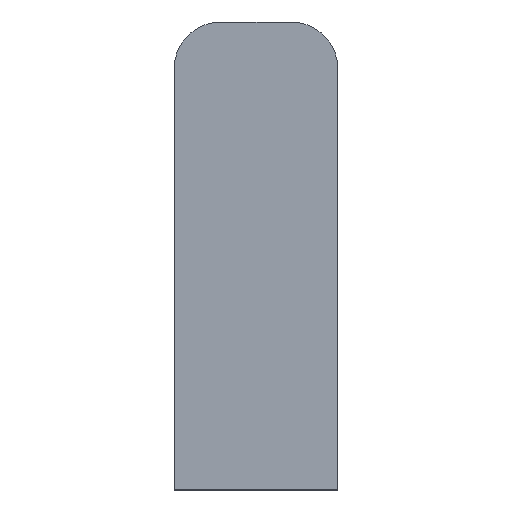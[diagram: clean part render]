
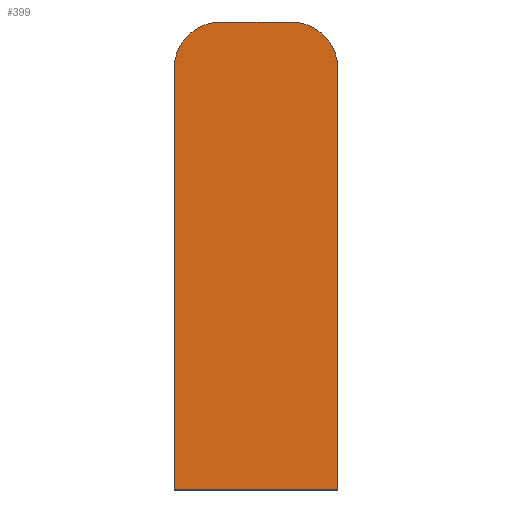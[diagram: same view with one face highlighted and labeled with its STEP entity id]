
A CAD part, front view. The second image highlights one B-rep face of the part: STEP entity #399.
In plain terms, the highlighted planar face has unit normal (0, -1, 0).
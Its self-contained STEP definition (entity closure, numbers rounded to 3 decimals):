
#3 = CARTESIAN_POINT ( 'NONE',  ( -5.25, 0., 10.5 ) ) ;
#10 = VERTEX_POINT ( 'NONE', #3 ) ;
#16 = VERTEX_POINT ( 'NONE', #33 ) ;
#17 = VERTEX_POINT ( 'NONE', #34 ) ;
#18 = VERTEX_POINT ( 'NONE', #35 ) ;
#19 = VERTEX_POINT ( 'NONE', #36 ) ;
#21 = VERTEX_POINT ( 'NONE', #38 ) ;
#33 = CARTESIAN_POINT ( 'NONE',  ( -2.25, 0., 13.5 ) ) ;
#34 = CARTESIAN_POINT ( 'NONE',  ( 2.25, 0., 13.5 ) ) ;
#35 = CARTESIAN_POINT ( 'NONE',  ( 5.25, 0., 10.5 ) ) ;
#36 = CARTESIAN_POINT ( 'NONE',  ( -5.25, 0., -16.5 ) ) ;
#38 = CARTESIAN_POINT ( 'NONE',  ( 5.25, 0., -16.5 ) ) ;
#46 = CARTESIAN_POINT ( 'NONE',  ( 2.25, 0., 10.5 ) ) ;
#47 = DIRECTION ( 'NONE',  ( 0., -1., 0. ) ) ;
#48 = DIRECTION ( 'NONE',  ( -1., 0., 0. ) ) ;
#53 = CARTESIAN_POINT ( 'NONE',  ( -2.25, 0., 10.5 ) ) ;
#55 = DIRECTION ( 'NONE',  ( 0., -1., 0. ) ) ;
#56 = DIRECTION ( 'NONE',  ( -1., 0., 0. ) ) ;
#59 = CARTESIAN_POINT ( 'NONE',  ( 5.25, 0., -16.5 ) ) ;
#60 = DIRECTION ( 'NONE',  ( 1., 0., 0. ) ) ;
#84 = CARTESIAN_POINT ( 'NONE',  ( -5.25, 0., -16.5 ) ) ;
#85 = DIRECTION ( 'NONE',  ( 0., 0., -1. ) ) ;
#102 = CARTESIAN_POINT ( 'NONE',  ( 5.25, 0., -16.5 ) ) ;
#103 = DIRECTION ( 'NONE',  ( 0., 0., 1. ) ) ;
#106 = CARTESIAN_POINT ( 'NONE',  ( 2.25, 0., 13.5 ) ) ;
#107 = DIRECTION ( 'NONE',  ( -1., 0., 0. ) ) ;
#122 = CARTESIAN_POINT ( 'NONE',  ( 0., 0., -1.5 ) ) ;
#123 = PLANE ( 'NONE',  #233 ) ;
#125 = DIRECTION ( 'NONE',  ( 0., 1., 0. ) ) ;
#126 = DIRECTION ( 'NONE',  ( -1., 0., 0. ) ) ;
#179 = AXIS2_PLACEMENT_3D ( 'NONE', #46, #47, #48 ) ;
#182 = EDGE_CURVE ( 'NONE', #18, #17, #296, .T. ) ;
#185 = EDGE_CURVE ( 'NONE', #16, #10, #392, .T. ) ;
#187 = EDGE_CURVE ( 'NONE', #19, #21, #300, .T. ) ;
#209 = AXIS2_PLACEMENT_3D ( 'NONE', #53, #55, #56 ) ;
#214 = EDGE_CURVE ( 'NONE', #10, #19, #359, .T. ) ;
#228 = EDGE_CURVE ( 'NONE', #21, #18, #389, .T. ) ;
#230 = EDGE_CURVE ( 'NONE', #17, #16, #391, .T. ) ;
#233 = AXIS2_PLACEMENT_3D ( 'NONE', #122, #125, #126 ) ;
#265 = ORIENTED_EDGE ( 'NONE', *, *, #228, .T. ) ;
#266 = ORIENTED_EDGE ( 'NONE', *, *, #182, .T. ) ;
#267 = ORIENTED_EDGE ( 'NONE', *, *, #230, .T. ) ;
#268 = ORIENTED_EDGE ( 'NONE', *, *, #185, .T. ) ;
#273 = EDGE_LOOP ( 'NONE', ( #265, #266, #267, #268, #281, #282 ) ) ;
#281 = ORIENTED_EDGE ( 'NONE', *, *, #214, .T. ) ;
#282 = ORIENTED_EDGE ( 'NONE', *, *, #187, .T. ) ;
#296 = CIRCLE ( 'NONE', #179, 3. ) ;
#300 = LINE ( 'NONE', #59, #301 ) ;
#301 = VECTOR ( 'NONE', #60, 1000. ) ;
#327 = FACE_OUTER_BOUND ( 'NONE', #273, .T. ) ;
#328 = VECTOR ( 'NONE', #107, 1000. ) ;
#350 = VECTOR ( 'NONE', #103, 1000. ) ;
#354 = VECTOR ( 'NONE', #85, 1000. ) ;
#359 = LINE ( 'NONE', #84, #354 ) ;
#389 = LINE ( 'NONE', #102, #350 ) ;
#391 = LINE ( 'NONE', #106, #328 ) ;
#392 = CIRCLE ( 'NONE', #209, 3. ) ;
#399 = ADVANCED_FACE ( 'NONE', ( #327 ), #123, .F. ) ;
